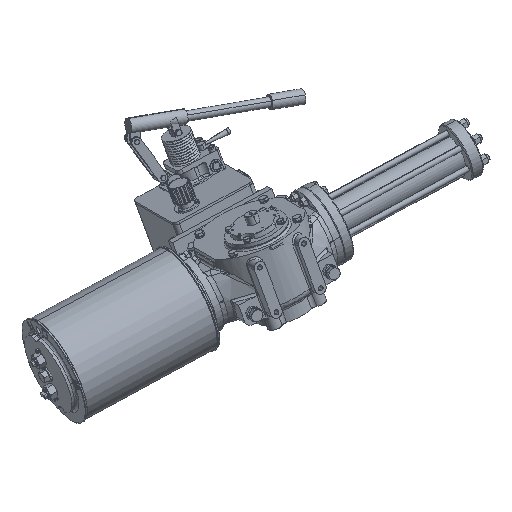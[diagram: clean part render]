
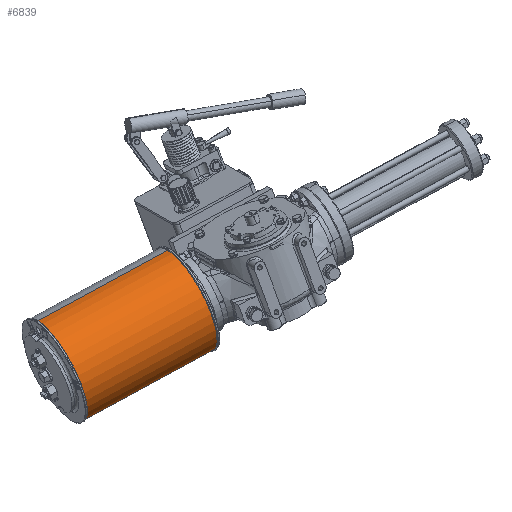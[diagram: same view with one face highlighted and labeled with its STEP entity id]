
A CAD part, isometric view. The second image highlights one B-rep face of the part: STEP entity #6839.
In plain terms, the highlighted cylindrical face has radius 109.5 mm (diameter 219 mm), a partial arc.
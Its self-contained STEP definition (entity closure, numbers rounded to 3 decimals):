
#635 = DIRECTION ( 'NONE',  ( 0.95, -0.237, 0.202 ) ) ;
#2277 = AXIS2_PLACEMENT_3D ( 'NONE', #24673, #635, #96219 ) ;
#4218 = ORIENTED_EDGE ( 'NONE', *, *, #46980, .T. ) ;
#6839 = ADVANCED_FACE ( 'NONE', ( #65783 ), #49051, .T. ) ;
#8177 = ORIENTED_EDGE ( 'NONE', *, *, #68877, .T. ) ;
#9146 = DIRECTION ( 'NONE',  ( 0.95, -0.237, 0.202 ) ) ;
#9378 = DIRECTION ( 'NONE',  ( 0.95, -0.237, 0.202 ) ) ;
#10405 = DIRECTION ( 'NONE',  ( -0.116, 0.333, 0.936 ) ) ;
#10578 = VECTOR ( 'NONE', #9146, 1000. ) ;
#22074 = VERTEX_POINT ( 'NONE', #45716 ) ;
#24673 = CARTESIAN_POINT ( 'NONE',  ( -403.075, 330.931, -90.827 ) ) ;
#24797 = DIRECTION ( 'NONE',  ( -0.95, 0.237, -0.202 ) ) ;
#26359 = AXIS2_PLACEMENT_3D ( 'NONE', #66813, #9378, #10405 ) ;
#31382 = LINE ( 'NONE', #63748, #45261 ) ;
#38687 = DIRECTION ( 'NONE',  ( 0.95, -0.237, 0.202 ) ) ;
#40503 = ORIENTED_EDGE ( 'NONE', *, *, #68617, .T. ) ;
#41002 = LINE ( 'NONE', #65025, #10578 ) ;
#44151 = CARTESIAN_POINT ( 'NONE',  ( -110.048, 224.521, -133.574 ) ) ;
#45261 = VECTOR ( 'NONE', #38687, 1000. ) ;
#45716 = CARTESIAN_POINT ( 'NONE',  ( -390.358, 294.426, -193.277 ) ) ;
#46980 = EDGE_CURVE ( 'NONE', #22074, #72212, #31382, .T. ) ;
#47198 = CARTESIAN_POINT ( 'NONE',  ( -135.481, 297.533, 71.324 ) ) ;
#48266 = DIRECTION ( 'NONE',  ( -0.116, 0.333, 0.936 ) ) ;
#49051 = CYLINDRICAL_SURFACE ( 'NONE', #26359, 109.5 ) ;
#50698 = VERTEX_POINT ( 'NONE', #57868 ) ;
#54358 = ORIENTED_EDGE ( 'NONE', *, *, #85697, .F. ) ;
#57868 = CARTESIAN_POINT ( 'NONE',  ( -415.791, 367.437, 11.622 ) ) ;
#63748 = CARTESIAN_POINT ( 'NONE',  ( -390.358, 294.426, -193.277 ) ) ;
#65025 = CARTESIAN_POINT ( 'NONE',  ( -415.791, 367.437, 11.622 ) ) ;
#65783 = FACE_OUTER_BOUND ( 'NONE', #89047, .T. ) ;
#66813 = CARTESIAN_POINT ( 'NONE',  ( -403.075, 330.931, -90.827 ) ) ;
#68617 = EDGE_CURVE ( 'NONE', #72212, #77188, #74020, .T. ) ;
#68877 = EDGE_CURVE ( 'NONE', #50698, #22074, #100672, .T. ) ;
#72212 = VERTEX_POINT ( 'NONE', #44151 ) ;
#72836 = CARTESIAN_POINT ( 'NONE',  ( -122.764, 261.027, -31.125 ) ) ;
#74020 = CIRCLE ( 'NONE', #92336, 109.5 ) ;
#77188 = VERTEX_POINT ( 'NONE', #47198 ) ;
#85697 = EDGE_CURVE ( 'NONE', #50698, #77188, #41002, .T. ) ;
#89047 = EDGE_LOOP ( 'NONE', ( #8177, #4218, #40503, #54358 ) ) ;
#92336 = AXIS2_PLACEMENT_3D ( 'NONE', #72836, #24797, #48266 ) ;
#96219 = DIRECTION ( 'NONE',  ( -0.116, 0.333, 0.936 ) ) ;
#100672 = CIRCLE ( 'NONE', #2277, 109.5 ) ;
